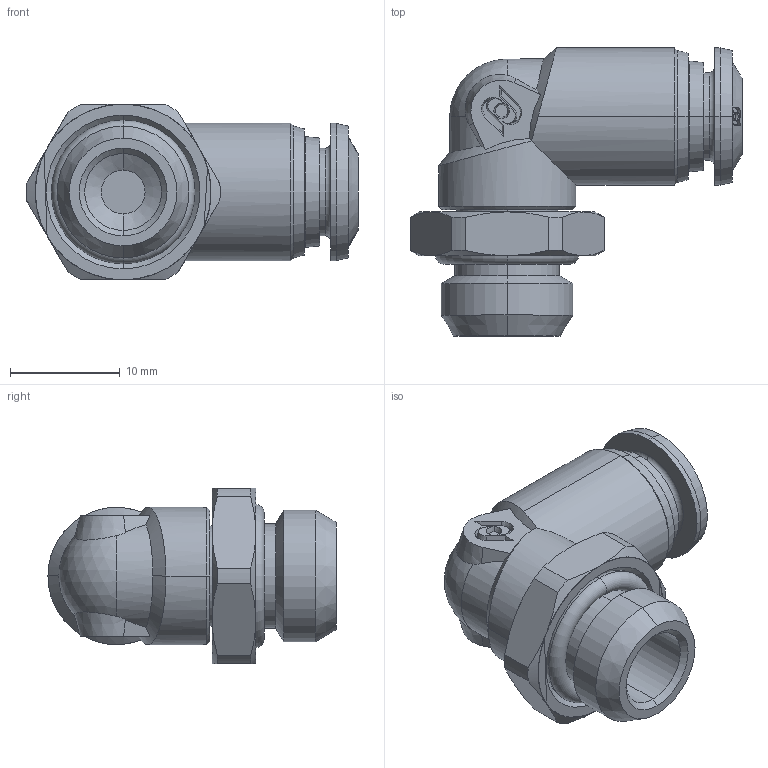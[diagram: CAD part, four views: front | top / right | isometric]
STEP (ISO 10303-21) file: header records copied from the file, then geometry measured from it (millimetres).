
FILE_DESCRIPTION (( 'STEP AP214' ), '1' );
FILE_NAME ('5011600023.step', '2012-10-01T16:45:58', ( '' ), ( '' ), 'SwSTEP 2.0', 'SolidWorks 2012', '' );
FILE_SCHEMA (( 'AUTOMOTIVE_DESIGN' ));
Length unit declared in the file: millimetre
Products named in the file (1): 5011600023
Bounding box: 30.25 x 26.25 x 16 mm (x, y, z)
Volume: 4126.4 mm3; surface area: 3085.9 mm2
Topology: 2 solids, 3 shells, 233 faces, 563 edges, 357 vertices
Faces by surface type: cone 67, plane 57, bspline 50, cylinder 44, torus 14, sphere 1
Entity records: 12219 total; most frequent: CARTESIAN_POINT 4628, ORIENTED_EDGE 1126, DIRECTION 879, EDGE_CURVE 563, AXIS2_PLACEMENT_3D 364, VERTEX_POINT 357, EDGE_LOOP 258, UNCERTAINTY_MEASURE_WITH_UNIT 237
